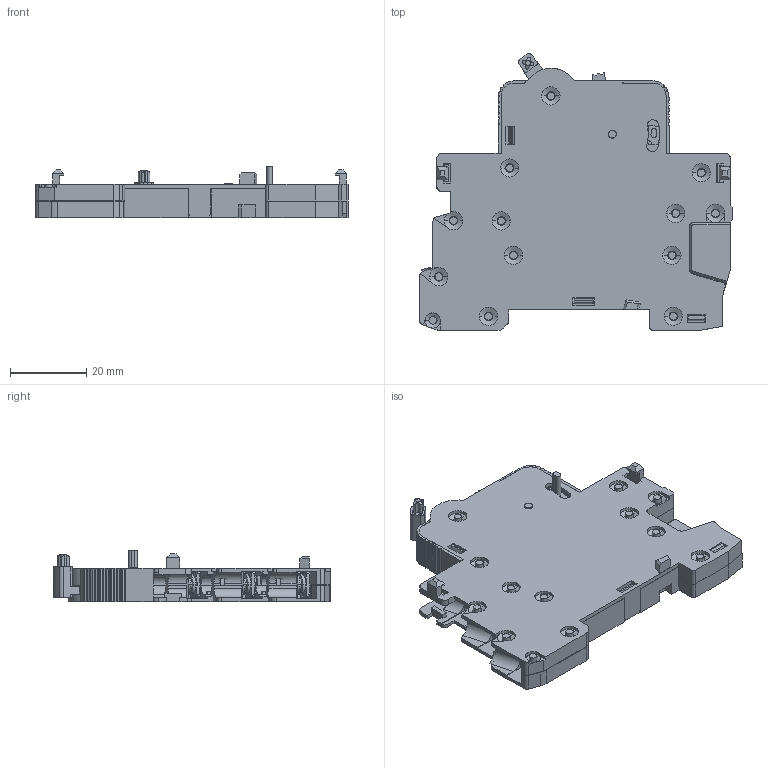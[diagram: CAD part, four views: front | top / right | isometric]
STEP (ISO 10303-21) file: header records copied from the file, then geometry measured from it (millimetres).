
FILE_DESCRIPTION((''),'2;1');
FILE_NAME('ASM0004_ASM','2022-08-24T',('wuhao1'),(''),'PRO/ENGINEER BY PARAMETRIC TECHNOLOGY CORPORATION, 2017170','PRO/ENGINEER BY PARAMETRIC TECHNOLOGY CORPORATION, 2017170','');
FILE_SCHEMA(('CONFIG_CONTROL_DESIGN'));
Products named in the file (3): 155; _2__SW0001; ASM0004_ASM
Assembly tree (2 placements, depth 2):
  ASM0004_ASM
    155
    _2__SW0001
Bounding box: 82.21 x 72.79 x 13.65 mm (x, y, z)
Volume: 10697.7 mm3; surface area: 30509 mm2
Topology: 4 solids, 5 shells, 2155 faces, 6329 edges, 4208 vertices
Faces by surface type: plane 1375, cylinder 618, cone 81, extrusion 53, bspline 20, torus 8
Entity records: 76635 total; most frequent: CARTESIAN_POINT 18659, ORIENTED_EDGE 12592, DIRECTION 11557, EDGE_CURVE 6329, VECTOR 4443, LINE 4390, VERTEX_POINT 4208, AXIS2_PLACEMENT_3D 3557
